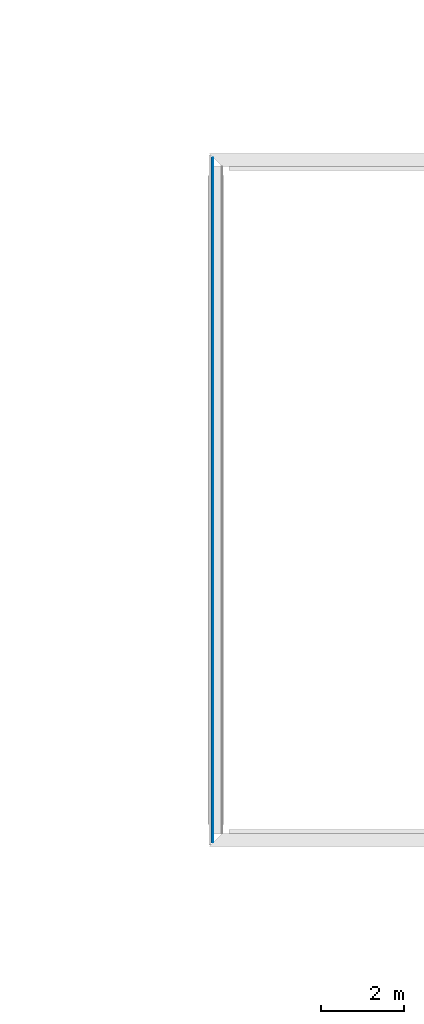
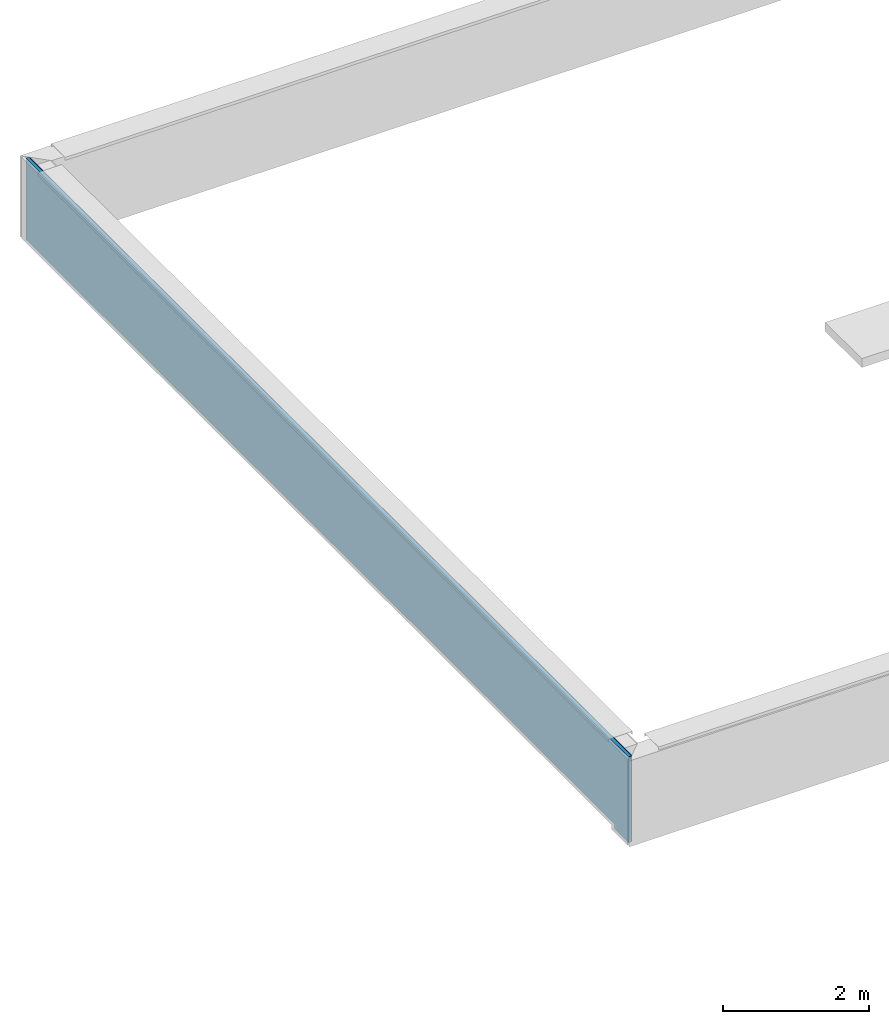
# One storey, part 5 of 8: 2 building element parts, 1 element without a shape of its own.
"""IFC2X3 building model written with IfcOpenShell, lengths in metres."""

from ifc_helpers import new_model, entity, si_unit, converted_unit, derived_unit, money_unit, direction, frame, origin_with_axes, place, context, subcontext, project, spatial, polyline, outline, extrude, boolean, faceted_brep, material, type_object, element, aggregate, save


model = new_model("IFC2X3")

# Units and contexts
model_context = context("Model", 3, precision=1e-05, world=origin_with_axes(), true_north=direction((0.0, 1.0)))
body_context = subcontext(model_context, "Body", "Model", "MODEL_VIEW")
ifc_project = project(units=[si_unit("LENGTHUNIT", "METRE"), si_unit("AREAUNIT", "SQUARE_METRE"), si_unit("VOLUMEUNIT", "CUBIC_METRE"), converted_unit("PLANEANGLEUNIT", "DEGREE", entity("IfcPlaneAngleMeasure", 0.0174532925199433), si_unit("PLANEANGLEUNIT", "RADIAN"), dimensions=[0, 0, 0, 0, 0, 0, 0]), money_unit("EUR"), converted_unit("TIMEUNIT", "Year", entity("IfcTimeMeasure", 31557600.0), si_unit("TIMEUNIT", "SECOND"), dimensions=[0, 0, 1, 0, 0, 0, 0]), si_unit("MASSUNIT", "GRAM", prefix="KILO"), si_unit("THERMODYNAMICTEMPERATUREUNIT", "DEGREE_CELSIUS"), si_unit("LUMINOUSINTENSITYUNIT", "LUMEN"), si_unit("ENERGYUNIT", "JOULE", prefix="MEGA"), derived_unit("THERMALCONDUCTANCEUNIT", [(si_unit("POWERUNIT", "WATT"), 1), (si_unit("LENGTHUNIT", "METRE"), -1), (si_unit("THERMODYNAMICTEMPERATUREUNIT", "KELVIN"), -1)]), derived_unit("SPECIFICHEATCAPACITYUNIT", [(si_unit("ENERGYUNIT", "JOULE"), 1), (si_unit("MASSUNIT", "GRAM", prefix="KILO"), -1), (si_unit("THERMODYNAMICTEMPERATUREUNIT", "KELVIN"), -1)]), derived_unit("MASSDENSITYUNIT", [(si_unit("MASSUNIT", "GRAM", prefix="KILO"), 1), (si_unit("VOLUMEUNIT", "CUBIC_METRE"), -1)])], contexts=[model_context])

# Site, building, storey
site_placement = place(None, origin_with_axes())
site = spatial("IfcSite", under=ifc_project, at=site_placement, Name="Site", CompositionType="ELEMENT")
building_placement = place(site_placement, origin_with_axes())
building = spatial("IfcBuilding", under=site, at=building_placement, Name="Bâtiment", CompositionType="ELEMENT")
storey_placement = place(building_placement, frame((0.0, 0.0, 7.12), z_axis=(0.0, 0.0, 1.0), x_axis=(1.0, 0.0, 0.0)))
storey = spatial("IfcBuildingStorey", under=building, at=storey_placement, Name="Combles", CompositionType="ELEMENT", Elevation=7.12)

# Wall, building element parts
wall_type = type_object("IfcWallType", Name="*MACONNERIE BARDAGE METAL Acrotère 318", PredefinedType="NOTDEFINED")
wall_placement = place(storey_placement, frame((24.98999999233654, -11.14756213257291, -0.334784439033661), z_axis=(0.0, 0.0, 1.0), x_axis=(0.0, -1.0, 0.0)))
wall = element("IfcWall", 1, at=wall_placement, inside=storey, type_object=wall_type, Name="Mur maçonné + ITI + véture métallique")
ifc_material_1 = material(Name="Finition int - Enduit plâtre")
building_element_part_1_placement = place(wall_placement, origin_with_axes())
solid_1 = boolean("DIFFERENCE", boolean("DIFFERENCE", boolean("DIFFERENCE", boolean("DIFFERENCE", boolean("DIFFERENCE", boolean("DIFFERENCE", boolean("DIFFERENCE", boolean("DIFFERENCE", extrude(outline(polyline([(-0.3680000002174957, -0.2779999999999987), (16.28800002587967, -0.2779999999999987), (16.28800002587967, -0.2680000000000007), (-0.3680000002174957, -0.2680000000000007), (-0.3680000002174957, -0.2779999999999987)])), origin_with_axes(), (0.0, 0.0, 1.0), 1.434784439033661), faceted_brep([(15.97000002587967, -0.04999999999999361, 0.0), (15.97000002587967, -0.04999999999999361, 1.434784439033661), (16.28800002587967, -0.05000000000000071, 1.434784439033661), (16.28800002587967, -0.05000000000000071, 0.0), (15.97000002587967, -0.06799999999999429, 1.434784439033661), (15.97000002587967, -0.06799999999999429, 0.0), (16.28800002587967, -0.06800000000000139, 1.434784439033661), (16.28800002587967, -0.06800000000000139, 0.0)], [[[0, 1, 2, 3]], [[4, 1, 0, 5]], [[1, 4, 6, 2]], [[6, 7, 3, 2]], [[5, 0, 3, 7]], [[4, 5, 7, 6]]])), faceted_brep([(-0.04999998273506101, -0.06800000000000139, 1.434784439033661), (-0.04999998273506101, -0.05000000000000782, 1.434784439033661), (-0.3680000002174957, -0.05000000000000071, 1.434784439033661), (-0.3680000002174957, -0.06800000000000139, 1.434784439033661), (-0.04999998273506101, -0.05000000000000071, 0.08067000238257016), (-0.04999998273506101, -0.06799999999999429, 0.08067000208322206), (15.81000015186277, -0.04999999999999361, 0.08067000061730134), (15.81000015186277, -0.04999999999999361, 0.0), (-0.3680000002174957, -0.05000000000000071, 0.0), (0.0, -0.05000000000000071, 0.08067000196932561), (5.485002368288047, -0.04999999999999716, 0.08067000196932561), (5.485002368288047, -0.05000000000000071, 0.2510174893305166), (5.735002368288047, -0.05000000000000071, 0.2510174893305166), (5.735002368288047, -0.04999999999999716, 0.08067000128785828), (10.18500243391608, -0.04999999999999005, 0.08067000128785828), (10.18500243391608, -0.04999999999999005, 0.2275174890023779), (10.43500243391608, -0.04999999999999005, 0.2275174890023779), (10.43500243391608, -0.04999999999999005, 0.08067000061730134), (-0.3680000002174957, -0.06800000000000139, 0.0), (15.81000015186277, -0.06800000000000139, 0.0), (15.81000015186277, -0.06800000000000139, 0.08067000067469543), (0.0, -0.06800000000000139, 0.08067000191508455), (10.43500243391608, -0.05800630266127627, 0.08067000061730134), (10.18500243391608, -0.05800630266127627, 0.08067000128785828), (5.735002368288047, -0.05799987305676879, 0.08067000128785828), (5.485002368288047, -0.05799987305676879, 0.08067000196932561), (5.485002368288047, -0.05799987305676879, 0.2510174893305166), (5.735002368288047, -0.05799987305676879, 0.2510174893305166), (10.18500243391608, -0.05800630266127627, 0.2275174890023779), (10.43500243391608, -0.05800630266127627, 0.2275174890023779)], [[[0, 1, 2, 3]], [[4, 1, 0, 5]], [[6, 7, 8, 2, 1, 4, 9, 10, 11, 12, 13, 14, 15, 16, 17]], [[2, 8, 18, 3]], [[5, 0, 3, 18, 19, 20, 21]], [[9, 4, 5, 21]], [[7, 6, 20, 19]], [[7, 19, 18, 8]], [[10, 9, 21, 20, 6, 17, 22, 23, 14, 13, 24, 25]], [[11, 10, 25, 26]], [[12, 11, 26, 27]], [[13, 12, 27, 24]], [[15, 14, 23, 28]], [[16, 15, 28, 29]], [[17, 16, 29, 22]], [[22, 29, 28, 23]], [[24, 27, 26, 25]]])), faceted_brep([(15.98800002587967, -0.06799999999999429, 0.0), (15.98800002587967, -0.06799999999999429, 1.434784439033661), (16.28800002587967, -0.06800000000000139, 1.434784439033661), (16.28800002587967, -0.06800000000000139, 0.0), (15.98800002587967, -0.2679999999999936, 1.434784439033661), (15.98800002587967, -0.2679999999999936, 0.0), (16.28800002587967, -0.2680000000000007, 1.434784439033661), (16.28800002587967, -0.2680000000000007, 0.0)], [[[0, 1, 2, 3]], [[4, 1, 0, 5]], [[1, 4, 6, 2]], [[2, 6, 7, 3]], [[5, 0, 3, 7]], [[4, 5, 7, 6]]])), faceted_brep([(-0.06799998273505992, -0.2680000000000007, 1.434784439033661), (-0.06799998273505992, -0.06800000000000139, 1.434784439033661), (-0.3680000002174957, -0.06800000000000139, 1.434784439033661), (-0.3680000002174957, -0.2680000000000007, 1.434784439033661), (-0.06799998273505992, -0.06799999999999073, 0.08067000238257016), (-0.06799998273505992, -0.2680000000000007, 0.08067000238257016), (15.81000015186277, -0.06800000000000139, 0.08067000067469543), (15.81000015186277, -0.06800000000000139, 0.0), (-0.3680000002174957, -0.06800000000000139, 0.0), (-0.04999998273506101, -0.06799999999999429, 0.08067000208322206), (0.0, -0.06800000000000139, 0.08067000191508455), (-0.3680000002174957, -0.2680000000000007, 0.0), (15.81000015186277, -0.2680000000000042, 0.0), (15.81000015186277, -0.2680000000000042, 0.08067000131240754), (0.0, -0.2680000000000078, 0.08067000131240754)], [[[0, 1, 2, 3]], [[4, 1, 0, 5]], [[6, 7, 8, 2, 1, 4, 9, 10]], [[3, 2, 8, 11]], [[5, 0, 3, 11, 12, 13, 14]], [[9, 4, 5, 14, 10]], [[7, 6, 13, 12]], [[7, 12, 11, 8]], [[6, 10, 14, 13]]])), faceted_brep([(-0.3680000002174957, -0.2680000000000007, 1.434784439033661), (-0.3680000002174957, -0.2779999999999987, 1.434784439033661), (-0.267999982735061, -0.2780000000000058, 1.434784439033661), (-0.267999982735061, -0.2680000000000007, 1.434784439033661), (-0.3680000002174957, -0.2779999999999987, 0.0), (-0.3680000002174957, -0.2680000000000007, 0.0), (15.81000015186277, -0.2780000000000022, 0.0806700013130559), (0.0, -0.2780000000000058, 0.0806700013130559), (-0.267999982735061, -0.2779999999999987, 0.08067000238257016), (15.81000015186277, -0.2780000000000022, 0.0), (-0.267999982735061, -0.2679999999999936, 0.08067000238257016), (0.0, -0.2680000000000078, 0.0806700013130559), (15.81000015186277, -0.2680000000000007, 0.0806700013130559), (15.81000015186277, -0.2680000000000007, 0.0)], [[[0, 1, 2, 3]], [[4, 1, 0, 5]], [[6, 7, 8, 2, 1, 4, 9]], [[2, 8, 10, 3]], [[10, 11, 12, 13, 5, 0, 3]], [[4, 5, 13, 9]], [[7, 6, 12, 11]], [[8, 7, 11, 10]], [[6, 9, 13, 12]]])), faceted_brep([(16.28800002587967, -0.2680000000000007, 0.0), (16.18800002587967, -0.2679999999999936, 0.0), (16.18800002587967, -0.2679999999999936, 1.434784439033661), (16.28800002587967, -0.2680000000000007, 1.434784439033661), (16.28800002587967, -0.2779999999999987, 0.0), (16.18800002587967, -0.2779999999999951, 0.0), (16.18800002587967, -0.2779999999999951, 1.434784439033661), (16.28800002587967, -0.2779999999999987, 1.434784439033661)], [[[0, 1, 2, 3]], [[4, 5, 1, 0]], [[5, 6, 2, 1]], [[3, 2, 6, 7]], [[3, 7, 4, 0]], [[7, 6, 5, 4]]])), faceted_brep([(16.28800002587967, -0.2779999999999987, 0.0), (16.19800002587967, -0.2779999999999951, 0.0), (16.19800002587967, -0.2779999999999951, 1.434784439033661), (16.28800002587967, -0.2779999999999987, 1.434784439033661), (16.28800002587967, -0.3279999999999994, 0.0), (16.19800002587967, -0.3279999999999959, 0.0), (16.19800002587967, -0.3279999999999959, 1.434784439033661), (16.28800002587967, -0.3279999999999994, 1.434784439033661)], [[[0, 1, 2, 3]], [[4, 5, 1, 0]], [[5, 6, 2, 1]], [[3, 2, 6, 7]], [[0, 3, 7, 4]], [[7, 6, 5, 4]]])), faceted_brep([(-0.3680000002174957, -0.3279999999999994, 1.434784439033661), (-0.2779999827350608, -0.3279999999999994, 1.434784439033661), (-0.2779999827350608, -0.2779999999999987, 1.434784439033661), (-0.3680000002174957, -0.2779999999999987, 1.434784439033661), (0.0, -0.3280000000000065, 0.08067000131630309), (-0.2779999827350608, -0.3279999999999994, 0.08067000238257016), (-0.3680000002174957, -0.3279999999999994, 0.0), (15.81000015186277, -0.328000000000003, 0.0), (15.81000015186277, -0.328000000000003, 0.08067000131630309), (-0.2779999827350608, -0.2779999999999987, 0.08067000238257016), (0.0, -0.2780000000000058, 0.08067000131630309), (15.81000015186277, -0.2780000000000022, 0.08067000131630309), (15.81000015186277, -0.2780000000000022, 0.0), (-0.3680000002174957, -0.2779999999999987, 0.0)], [[[0, 1, 2, 3]], [[4, 5, 1, 0, 6, 7, 8]], [[5, 9, 2, 1]], [[10, 11, 12, 13, 3, 2, 9]], [[6, 0, 3, 13]], [[4, 10, 9, 5]], [[13, 12, 7, 6]], [[7, 12, 11, 8]], [[8, 11, 10, 4]]]))
building_element_part_1 = element("IfcBuildingElementPart", 2, at=building_element_part_1_placement, material=ifc_material_1, Name="Finition int - Enduit plâtre", context=body_context, shape_type="CSG", body=[
    boolean("DIFFERENCE", boolean("DIFFERENCE", solid_1, faceted_brep([(16.24800002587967, -0.3279999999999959, 0.0), (16.24800002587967, -0.3279999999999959, 1.434784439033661), (16.28800002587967, -0.3279999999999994, 1.434784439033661), (16.28800002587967, -0.3279999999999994, 0.0), (16.24800002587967, -0.367999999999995, 1.434784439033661), (16.24800002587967, -0.367999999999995, 0.0), (16.28800002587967, -0.3679999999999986, 1.434784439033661), (16.28800002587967, -0.3679999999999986, 0.0)], [[[0, 1, 2, 3]], [[4, 1, 0, 5]], [[1, 4, 6, 2]], [[2, 6, 7, 3]], [[5, 0, 3, 7]], [[4, 5, 7, 6]]])), faceted_brep([(-0.3279999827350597, -0.3679999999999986, 1.434784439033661), (-0.3279999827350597, -0.3279999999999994, 1.434784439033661), (-0.3680000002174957, -0.3279999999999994, 1.434784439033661), (-0.3680000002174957, -0.3679999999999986, 1.434784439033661), (-0.3279999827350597, -0.3279999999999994, 0.08067000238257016), (-0.3279999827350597, -0.3679999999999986, 0.08067000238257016), (15.81000015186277, -0.328000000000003, 0.0806700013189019), (15.81000015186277, -0.328000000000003, 0.0), (-0.3680000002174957, -0.3279999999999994, 0.0), (0.0, -0.3280000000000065, 0.0806700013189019), (-0.3680000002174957, -0.3679999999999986, 0.0), (15.81000015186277, -0.3680000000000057, 0.0), (15.81000015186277, -0.3680000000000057, 0.0806700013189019), (0.0, -0.3680000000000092, 0.0806700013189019)], [[[0, 1, 2, 3]], [[4, 1, 0, 5]], [[6, 7, 8, 2, 1, 4, 9]], [[3, 2, 8, 10]], [[5, 0, 3, 10, 11, 12, 13]], [[9, 4, 5, 13]], [[7, 6, 12, 11]], [[7, 11, 10, 8]], [[6, 9, 13, 12]]])),
])
ifc_material_2 = material(Name="Divers - Vide faux plafond")
building_element_part_2_placement = place(wall_placement, origin_with_axes())
solid_2 = boolean("DIFFERENCE", boolean("DIFFERENCE", boolean("DIFFERENCE", boolean("DIFFERENCE", boolean("DIFFERENCE", boolean("DIFFERENCE", boolean("DIFFERENCE", boolean("DIFFERENCE", extrude(outline(polyline([(-0.3680000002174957, -0.3279999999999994), (16.28800002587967, -0.3279999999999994), (16.28800002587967, -0.2779999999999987), (-0.3680000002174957, -0.2779999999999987), (-0.3680000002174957, -0.3279999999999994)])), origin_with_axes(), (0.0, 0.0, 1.0), 1.434784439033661), faceted_brep([(15.97000002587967, -0.04999999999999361, 0.0), (15.97000002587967, -0.04999999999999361, 1.434784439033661), (16.28800002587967, -0.05000000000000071, 1.434784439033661), (16.28800002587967, -0.05000000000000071, 0.0), (15.97000002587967, -0.06799999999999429, 1.434784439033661), (15.97000002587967, -0.06799999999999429, 0.0), (16.28800002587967, -0.06800000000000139, 1.434784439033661), (16.28800002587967, -0.06800000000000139, 0.0)], [[[0, 1, 2, 3]], [[4, 1, 0, 5]], [[1, 4, 6, 2]], [[6, 7, 3, 2]], [[5, 0, 3, 7]], [[4, 5, 7, 6]]])), faceted_brep([(-0.04999998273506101, -0.06800000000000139, 1.434784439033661), (-0.04999998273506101, -0.05000000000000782, 1.434784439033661), (-0.3680000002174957, -0.05000000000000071, 1.434784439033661), (-0.3680000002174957, -0.06800000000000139, 1.434784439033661), (-0.04999998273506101, -0.05000000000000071, 0.08067000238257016), (-0.04999998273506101, -0.06799999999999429, 0.08067000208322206), (15.81000015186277, -0.04999999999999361, 0.08067000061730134), (15.81000015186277, -0.04999999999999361, 0.0), (-0.3680000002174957, -0.05000000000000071, 0.0), (0.0, -0.05000000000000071, 0.08067000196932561), (5.485002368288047, -0.04999999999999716, 0.08067000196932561), (5.485002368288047, -0.05000000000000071, 0.2510174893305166), (5.735002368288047, -0.05000000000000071, 0.2510174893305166), (5.735002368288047, -0.04999999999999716, 0.08067000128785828), (10.18500243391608, -0.04999999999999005, 0.08067000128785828), (10.18500243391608, -0.04999999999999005, 0.2275174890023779), (10.43500243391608, -0.04999999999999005, 0.2275174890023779), (10.43500243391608, -0.04999999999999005, 0.08067000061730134), (-0.3680000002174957, -0.06800000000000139, 0.0), (15.81000015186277, -0.06800000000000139, 0.0), (15.81000015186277, -0.06800000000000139, 0.08067000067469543), (0.0, -0.06800000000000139, 0.08067000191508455), (10.43500243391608, -0.05800630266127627, 0.08067000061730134), (10.18500243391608, -0.05800630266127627, 0.08067000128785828), (5.735002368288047, -0.05799987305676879, 0.08067000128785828), (5.485002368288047, -0.05799987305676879, 0.08067000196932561), (5.485002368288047, -0.05799987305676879, 0.2510174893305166), (5.735002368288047, -0.05799987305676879, 0.2510174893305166), (10.18500243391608, -0.05800630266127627, 0.2275174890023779), (10.43500243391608, -0.05800630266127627, 0.2275174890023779)], [[[0, 1, 2, 3]], [[4, 1, 0, 5]], [[6, 7, 8, 2, 1, 4, 9, 10, 11, 12, 13, 14, 15, 16, 17]], [[2, 8, 18, 3]], [[5, 0, 3, 18, 19, 20, 21]], [[9, 4, 5, 21]], [[7, 6, 20, 19]], [[7, 19, 18, 8]], [[10, 9, 21, 20, 6, 17, 22, 23, 14, 13, 24, 25]], [[11, 10, 25, 26]], [[12, 11, 26, 27]], [[13, 12, 27, 24]], [[15, 14, 23, 28]], [[16, 15, 28, 29]], [[17, 16, 29, 22]], [[22, 29, 28, 23]], [[24, 27, 26, 25]]])), faceted_brep([(15.98800002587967, -0.06799999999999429, 0.0), (15.98800002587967, -0.06799999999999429, 1.434784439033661), (16.28800002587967, -0.06800000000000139, 1.434784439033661), (16.28800002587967, -0.06800000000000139, 0.0), (15.98800002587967, -0.2679999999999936, 1.434784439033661), (15.98800002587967, -0.2679999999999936, 0.0), (16.28800002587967, -0.2680000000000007, 1.434784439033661), (16.28800002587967, -0.2680000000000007, 0.0)], [[[0, 1, 2, 3]], [[4, 1, 0, 5]], [[1, 4, 6, 2]], [[2, 6, 7, 3]], [[5, 0, 3, 7]], [[4, 5, 7, 6]]])), faceted_brep([(-0.06799998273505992, -0.2680000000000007, 1.434784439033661), (-0.06799998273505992, -0.06800000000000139, 1.434784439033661), (-0.3680000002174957, -0.06800000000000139, 1.434784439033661), (-0.3680000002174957, -0.2680000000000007, 1.434784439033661), (-0.06799998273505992, -0.06799999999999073, 0.08067000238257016), (-0.06799998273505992, -0.2680000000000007, 0.08067000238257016), (15.81000015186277, -0.06800000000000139, 0.08067000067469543), (15.81000015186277, -0.06800000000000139, 0.0), (-0.3680000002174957, -0.06800000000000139, 0.0), (-0.04999998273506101, -0.06799999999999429, 0.08067000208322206), (0.0, -0.06800000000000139, 0.08067000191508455), (-0.3680000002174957, -0.2680000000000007, 0.0), (15.81000015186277, -0.2680000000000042, 0.0), (15.81000015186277, -0.2680000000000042, 0.08067000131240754), (0.0, -0.2680000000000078, 0.08067000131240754)], [[[0, 1, 2, 3]], [[4, 1, 0, 5]], [[6, 7, 8, 2, 1, 4, 9, 10]], [[3, 2, 8, 11]], [[5, 0, 3, 11, 12, 13, 14]], [[9, 4, 5, 14, 10]], [[7, 6, 13, 12]], [[7, 12, 11, 8]], [[6, 10, 14, 13]]])), faceted_brep([(-0.3680000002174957, -0.2680000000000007, 1.434784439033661), (-0.3680000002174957, -0.2779999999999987, 1.434784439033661), (-0.267999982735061, -0.2780000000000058, 1.434784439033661), (-0.267999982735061, -0.2680000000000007, 1.434784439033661), (-0.3680000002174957, -0.2779999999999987, 0.0), (-0.3680000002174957, -0.2680000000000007, 0.0), (15.81000015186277, -0.2780000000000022, 0.0806700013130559), (0.0, -0.2780000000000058, 0.0806700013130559), (-0.267999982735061, -0.2779999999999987, 0.08067000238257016), (15.81000015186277, -0.2780000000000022, 0.0), (-0.267999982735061, -0.2679999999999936, 0.08067000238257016), (0.0, -0.2680000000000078, 0.0806700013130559), (15.81000015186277, -0.2680000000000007, 0.0806700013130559), (15.81000015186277, -0.2680000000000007, 0.0)], [[[0, 1, 2, 3]], [[4, 1, 0, 5]], [[6, 7, 8, 2, 1, 4, 9]], [[2, 8, 10, 3]], [[10, 11, 12, 13, 5, 0, 3]], [[4, 5, 13, 9]], [[7, 6, 12, 11]], [[8, 7, 11, 10]], [[6, 9, 13, 12]]])), faceted_brep([(16.28800002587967, -0.2680000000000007, 0.0), (16.18800002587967, -0.2679999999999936, 0.0), (16.18800002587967, -0.2679999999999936, 1.434784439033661), (16.28800002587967, -0.2680000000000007, 1.434784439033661), (16.28800002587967, -0.2779999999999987, 0.0), (16.18800002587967, -0.2779999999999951, 0.0), (16.18800002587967, -0.2779999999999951, 1.434784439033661), (16.28800002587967, -0.2779999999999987, 1.434784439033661)], [[[0, 1, 2, 3]], [[4, 5, 1, 0]], [[5, 6, 2, 1]], [[3, 2, 6, 7]], [[3, 7, 4, 0]], [[7, 6, 5, 4]]])), faceted_brep([(16.28800002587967, -0.2779999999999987, 0.0), (16.19800002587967, -0.2779999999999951, 0.0), (16.19800002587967, -0.2779999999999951, 1.434784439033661), (16.28800002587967, -0.2779999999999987, 1.434784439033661), (16.28800002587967, -0.3279999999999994, 0.0), (16.19800002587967, -0.3279999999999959, 0.0), (16.19800002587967, -0.3279999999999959, 1.434784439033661), (16.28800002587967, -0.3279999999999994, 1.434784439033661)], [[[0, 1, 2, 3]], [[4, 5, 1, 0]], [[5, 6, 2, 1]], [[3, 2, 6, 7]], [[0, 3, 7, 4]], [[7, 6, 5, 4]]])), faceted_brep([(-0.3680000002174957, -0.3279999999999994, 1.434784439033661), (-0.2779999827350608, -0.3279999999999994, 1.434784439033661), (-0.2779999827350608, -0.2779999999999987, 1.434784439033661), (-0.3680000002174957, -0.2779999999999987, 1.434784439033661), (0.0, -0.3280000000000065, 0.08067000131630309), (-0.2779999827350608, -0.3279999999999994, 0.08067000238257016), (-0.3680000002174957, -0.3279999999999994, 0.0), (15.81000015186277, -0.328000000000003, 0.0), (15.81000015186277, -0.328000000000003, 0.08067000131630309), (-0.2779999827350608, -0.2779999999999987, 0.08067000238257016), (0.0, -0.2780000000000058, 0.08067000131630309), (15.81000015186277, -0.2780000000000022, 0.08067000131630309), (15.81000015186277, -0.2780000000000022, 0.0), (-0.3680000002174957, -0.2779999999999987, 0.0)], [[[0, 1, 2, 3]], [[4, 5, 1, 0, 6, 7, 8]], [[5, 9, 2, 1]], [[10, 11, 12, 13, 3, 2, 9]], [[6, 0, 3, 13]], [[4, 10, 9, 5]], [[13, 12, 7, 6]], [[7, 12, 11, 8]], [[8, 11, 10, 4]]]))
building_element_part_2 = element("IfcBuildingElementPart", 3, at=building_element_part_2_placement, material=ifc_material_2, Name="Divers - Vide faux plafond", context=body_context, shape_type="CSG", body=[
    boolean("DIFFERENCE", boolean("DIFFERENCE", solid_2, faceted_brep([(16.24800002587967, -0.3279999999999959, 0.0), (16.24800002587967, -0.3279999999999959, 1.434784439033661), (16.28800002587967, -0.3279999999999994, 1.434784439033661), (16.28800002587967, -0.3279999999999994, 0.0), (16.24800002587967, -0.367999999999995, 1.434784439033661), (16.24800002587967, -0.367999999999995, 0.0), (16.28800002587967, -0.3679999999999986, 1.434784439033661), (16.28800002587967, -0.3679999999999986, 0.0)], [[[0, 1, 2, 3]], [[4, 1, 0, 5]], [[1, 4, 6, 2]], [[2, 6, 7, 3]], [[5, 0, 3, 7]], [[4, 5, 7, 6]]])), faceted_brep([(-0.3279999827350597, -0.3679999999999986, 1.434784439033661), (-0.3279999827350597, -0.3279999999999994, 1.434784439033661), (-0.3680000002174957, -0.3279999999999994, 1.434784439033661), (-0.3680000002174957, -0.3679999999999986, 1.434784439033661), (-0.3279999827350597, -0.3279999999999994, 0.08067000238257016), (-0.3279999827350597, -0.3679999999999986, 0.08067000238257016), (15.81000015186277, -0.328000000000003, 0.0806700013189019), (15.81000015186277, -0.328000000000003, 0.0), (-0.3680000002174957, -0.3279999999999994, 0.0), (0.0, -0.3280000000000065, 0.0806700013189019), (-0.3680000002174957, -0.3679999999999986, 0.0), (15.81000015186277, -0.3680000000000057, 0.0), (15.81000015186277, -0.3680000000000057, 0.0806700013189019), (0.0, -0.3680000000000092, 0.0806700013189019)], [[[0, 1, 2, 3]], [[4, 1, 0, 5]], [[6, 7, 8, 2, 1, 4, 9]], [[3, 2, 8, 10]], [[5, 0, 3, 10, 11, 12, 13]], [[9, 4, 5, 13]], [[7, 6, 12, 11]], [[7, 11, 10, 8]], [[6, 9, 13, 12]]])),
])
aggregate(wall, [building_element_part_1, building_element_part_2])

save(model, "model.ifc")
